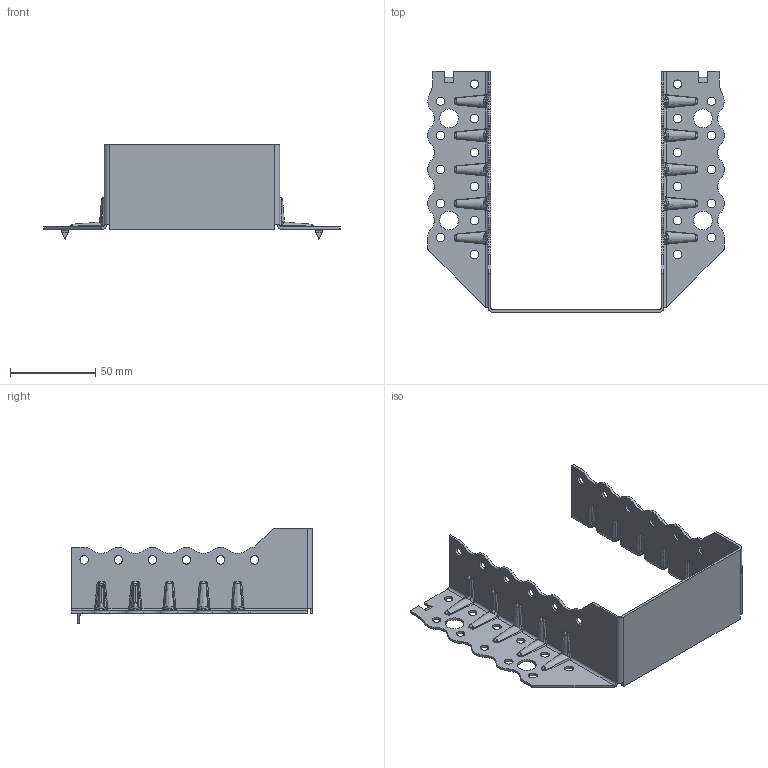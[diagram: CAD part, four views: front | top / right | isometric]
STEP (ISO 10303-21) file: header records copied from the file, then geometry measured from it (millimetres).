
FILE_DESCRIPTION (( 'STEP AP203' ), '1' );
FILE_NAME ('30508TOPK.STEP', '2020-04-07T11:26:56', ( '' ), ( '' ), 'SwSTEP 2.0', 'SolidWorks 2013', '' );
FILE_SCHEMA (( 'CONFIG_CONTROL_DESIGN' ));
Length unit declared in the file: millimetre
Products named in the file (1): 30508TOPK
Bounding box: 174 x 141.5 x 56 mm (x, y, z)
Volume: 35328.2 mm3; surface area: 49710.9 mm2
Topology: 1 solids, 1 shells, 734 faces, 1873 edges, 1124 vertices
Faces by surface type: bspline 290, cylinder 282, plane 132, cone 30
Entity records: 46628 total; most frequent: CARTESIAN_POINT 31278, ORIENTED_EDGE 3712, DIRECTION 2248, EDGE_CURVE 1856, VERTEX_POINT 1124, EDGE_LOOP 810, B_SPLINE_CURVE_WITH_KNOTS 800, AXIS2_PLACEMENT_3D 795
